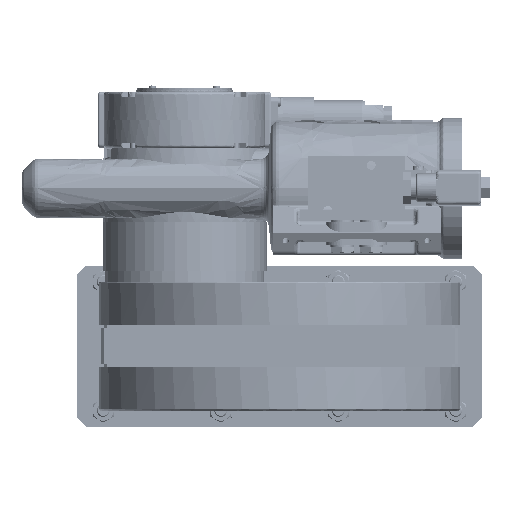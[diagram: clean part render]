
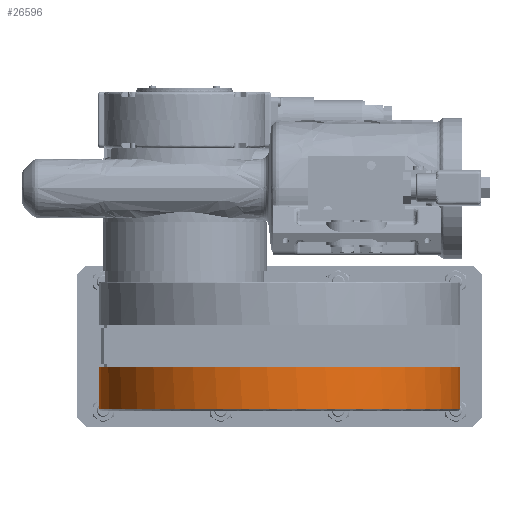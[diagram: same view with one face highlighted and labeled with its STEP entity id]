
A CAD part, front view. The second image highlights one B-rep face of the part: STEP entity #26596.
In plain terms, the highlighted free-form (B-spline) face has degree [2, 1] with [7, 2] control points.
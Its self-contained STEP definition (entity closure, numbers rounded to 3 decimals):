
#26521=CARTESIAN_POINT('V4',(112.4,-26.9,
   0.0));
#26522=VERTEX_POINT('V4',#26521);
#26523=CARTESIAN_POINT('E6',(112.4,-26.9,
   0.0));
#26524=CARTESIAN_POINT('E6',(112.4,-26.9,
   -194.683));
#26525=CARTESIAN_POINT('E6',(-56.2,-26.9,
   -97.341));
#26526=CARTESIAN_POINT('E6',(-224.8,
   -26.9,0.));
#26527=CARTESIAN_POINT('E6',(-56.2,-26.9,
   97.341));
#26528=CARTESIAN_POINT('E6',(112.4,-26.9,
   194.683));
#26529=CARTESIAN_POINT('E6',(112.4,-26.9,
   0.0));
#26537=(BOUNDED_CURVE()B_SPLINE_CURVE(2,(#26523,#26524,#26525,
   #26526,#26527,#26528,#26529),.CIRCULAR_ARC.,.T.,.U.)
   B_SPLINE_CURVE_WITH_KNOTS((3,2,2,3),(0.0,15.033,
   30.067,45.1),.UNSPECIFIED.)CURVE()
   GEOMETRIC_REPRESENTATION_ITEM()RATIONAL_B_SPLINE_CURVE((1.0,
   0.5,1.0,0.5,1.0,0.5,1.0)
   )REPRESENTATION_ITEM('E6'));
#26538=EDGE_CURVE('E6',#26522,#26522,#26537,.T.);
#26546=CARTESIAN_POINT('F4',(112.4,-26.9,
   0.0));
#26547=CARTESIAN_POINT('F4',(112.4,-26.9,
   -194.683));
#26548=CARTESIAN_POINT('F4',(-56.2,-26.9,
   -97.341));
#26549=CARTESIAN_POINT('F4',(-224.8,
   -26.9,0.));
#26550=CARTESIAN_POINT('F4',(-56.2,-26.9,
   97.341));
#26551=CARTESIAN_POINT('F4',(112.4,-26.9,
   194.683));
#26552=CARTESIAN_POINT('F4',(112.4,-26.9,
   0.0));
#26553=CARTESIAN_POINT('F4',(112.4,-1.,
   0.0));
#26554=CARTESIAN_POINT('F4',(112.4,-1.,
   -194.683));
#26555=CARTESIAN_POINT('F4',(-56.2,-1.,
   -97.341));
#26556=CARTESIAN_POINT('F4',(-224.8,-1.,
   0.));
#26557=CARTESIAN_POINT('F4',(-56.2,-1.,
   97.341));
#26558=CARTESIAN_POINT('F4',(112.4,-1.,
   194.683));
#26559=CARTESIAN_POINT('F4',(112.4,-1.,
   0.0));
#26567=(BOUNDED_SURFACE()B_SPLINE_SURFACE(2,1,((#26546,#26553),(
   #26547,#26554),(#26548,#26555),(#26549,#26556),(#26550,
   #26557),(#26551,#26558),(#26552,#26559)),.CYLINDRICAL_SURF.,
   .T.,.F.,.U.)B_SPLINE_SURFACE_WITH_KNOTS((3,2,2,3),(2,2),(0.0,
   15.033,30.067,45.1),(0.0,
   1.0),.UNSPECIFIED.)GEOMETRIC_REPRESENTATION_ITEM()
   RATIONAL_B_SPLINE_SURFACE(((1.0,1.0),(0.5,
   0.5),(1.0,1.0),(0.5,
   0.5),(1.0,1.0),(0.5,
   0.5),(1.0,1.0)))REPRESENTATION_ITEM('F4')SURFACE()
   );
#26568=CARTESIAN_POINT('V5',(112.4,-1.,
   0.0));
#26569=VERTEX_POINT('V5',#26568);
#26570=CARTESIAN_POINT('E7',(112.4,-1.,
   0.0));
#26571=CARTESIAN_POINT('E7',(112.4,-26.9,
   0.0));
#26572=QUASI_UNIFORM_CURVE('E7',1,(#26570,#26571),.POLYLINE_FORM.,
   .F.,.U.);
#26573=EDGE_CURVE('E7',#26569,#26522,#26572,.T.);
#26574=ORIENTED_EDGE('E7',*,*,#26573,.F.);
#26575=CARTESIAN_POINT('E8',(112.4,-1.,
   0.0));
#26576=CARTESIAN_POINT('E8',(112.4,-1.,
   194.683));
#26577=CARTESIAN_POINT('E8',(-56.2,-1.,
   97.341));
#26578=CARTESIAN_POINT('E8',(-224.8,-1.,
   0.));
#26579=CARTESIAN_POINT('E8',(-56.2,-1.,
   -97.341));
#26580=CARTESIAN_POINT('E8',(112.4,-1.,
   -194.683));
#26581=CARTESIAN_POINT('E8',(112.4,-1.,
   0.0));
#26589=(BOUNDED_CURVE()B_SPLINE_CURVE(2,(#26575,#26576,#26577,
   #26578,#26579,#26580,#26581),.CIRCULAR_ARC.,.T.,.U.)
   B_SPLINE_CURVE_WITH_KNOTS((3,2,2,3),(0.0,274.098,
   548.196,822.294),.UNSPECIFIED.)CURVE()
   GEOMETRIC_REPRESENTATION_ITEM()RATIONAL_B_SPLINE_CURVE((1.0,
   0.5,1.0,0.5,1.0,0.5,1.0)
   )REPRESENTATION_ITEM('E8'));
#26590=EDGE_CURVE('E8',#26569,#26569,#26589,.T.);
#26591=ORIENTED_EDGE('E8',*,*,#26590,.F.);
#26592=ORIENTED_EDGE('E7',*,*,#26573,.T.);
#26593=ORIENTED_EDGE('F3',*,*,#26538,.F.);
#26594=EDGE_LOOP('F4',(#26574,#26591,#26592,#26593));
#26595=FACE_OUTER_BOUND('F4',#26594,.F.);
#26596=ADVANCED_FACE('F4',(#26595),#26567,.T.);
